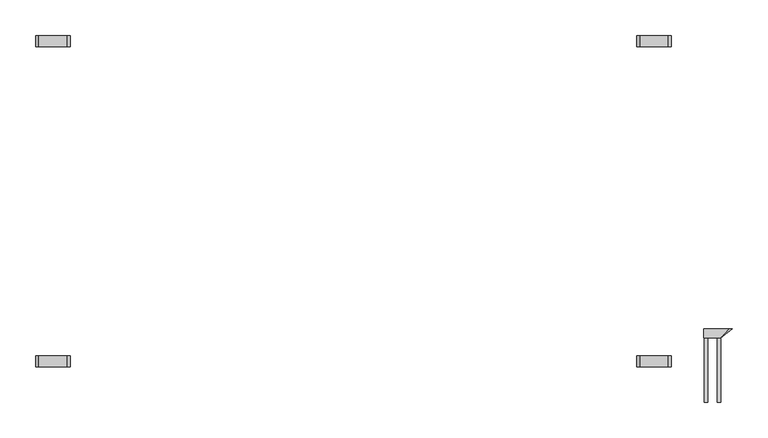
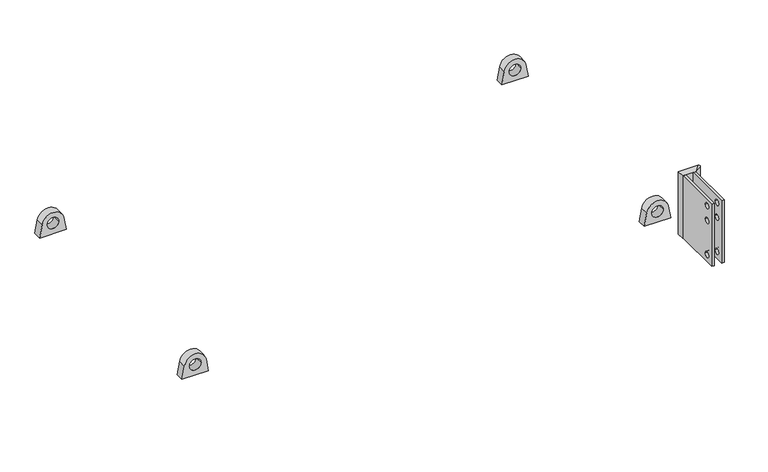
"""IFC4 building model written with IfcOpenShell, lengths in millimetres: proxy geometry, d&b J-Series Flying Frame : J Flying Frame."""

from ifc_helpers import new_model, si_unit, point, frame, frame_2d, origin, place, context, project, spatial, polyline, circle_curve, trimmed, segment, composite_curve, outline, extrude, source, transform, mapped, element, save
from ifc_brep_helpers import plane_surface, extruded_surface, spline_surface, advanced_brep


def communication_devices_215e93a8(model_context):
    return source(origin(), model_context, "Body", "SolidModel", [
        extrude(outline(composite_curve([segment(polyline([(80.0, -443.234811), (80.0, -395.065281), (104.1011074, -399.4769164)]), True, "CONTINUOUS"), segment(trimmed(circle_curve(frame_2d((100.5, -419.150046)), 20.0), [point((104.1011074, -399.4769164))], [point((104.1011074, -438.8231755))], False, "CARTESIAN"), True, "CONTINUOUS"), segment(polyline([(104.1011074, -438.8231755), (80.0, -443.234811)]), True, "CONTINUOUS")], self_intersect=False), holes=[composite_curve([segment(trimmed(circle_curve(frame_2d((100.4569778, -419.150046)), 10.5), [point((100.4569778, -429.650046))], [point((100.4569778, -408.650046))], True, "CARTESIAN"), True, "CONTINUOUS"), segment(trimmed(circle_curve(frame_2d((100.4569778, -419.150046)), 10.5), [point((100.4569778, -408.650046))], [point((100.4569778, -429.650046))], True, "CARTESIAN"), True, "CONTINUOUS")], self_intersect=False)]), frame((0.0, 59.5, 0.0), z_axis=(0.0, 1.0, 0.0), x_axis=(0.0, 0.0, 1.0)), (0.0, 0.0, 1.0), 15.0),
        extrude(outline(composite_curve([segment(polyline([(80.0, 444.934719), (104.1011074, 440.5230836)]), True, "CONTINUOUS"), segment(trimmed(circle_curve(frame_2d((100.5, 420.849954)), 20.0), [point((104.1011074, 440.5230836))], [point((104.1011074, 401.1768245))], False, "CARTESIAN"), True, "CONTINUOUS"), segment(polyline([(104.1011074, 401.1768245), (80.0, 396.765189), (80.0, 444.934719)]), True, "CONTINUOUS")], self_intersect=False), holes=[composite_curve([segment(trimmed(circle_curve(frame_2d((100.4569778, 420.849954)), 10.5), [point((100.4569778, 431.349954))], [point((100.4569778, 410.349954))], True, "CARTESIAN"), True, "CONTINUOUS"), segment(trimmed(circle_curve(frame_2d((100.4569778, 420.849954)), 10.5), [point((100.4569778, 410.349954))], [point((100.4569778, 431.349954))], True, "CARTESIAN"), True, "CONTINUOUS")], self_intersect=False)]), frame((0.0, 59.5, 0.0), z_axis=(0.0, 1.0, 0.0), x_axis=(0.0, 0.0, 1.0)), (0.0, 0.0, 1.0), 15.0),
        extrude(outline(composite_curve([segment(polyline([(80.0, -443.234811), (80.0, -395.065281), (104.1011074, -399.4769164)]), True, "CONTINUOUS"), segment(trimmed(circle_curve(frame_2d((100.5, -419.150046)), 20.0), [point((104.1011074, -399.4769164))], [point((104.1011074, -438.8231755))], False, "CARTESIAN"), True, "CONTINUOUS"), segment(polyline([(104.1011074, -438.8231755), (80.0, -443.234811)]), True, "CONTINUOUS")], self_intersect=False), holes=[composite_curve([segment(trimmed(circle_curve(frame_2d((100.4569778, -419.150046)), 10.5), [point((100.4569778, -429.650046))], [point((100.4569778, -408.650046))], True, "CARTESIAN"), True, "CONTINUOUS"), segment(trimmed(circle_curve(frame_2d((100.4569778, -419.150046)), 10.5), [point((100.4569778, -408.650046))], [point((100.4569778, -429.650046))], True, "CARTESIAN"), True, "CONTINUOUS")], self_intersect=False)]), frame((0.0, 507.5, 0.0), z_axis=(0.0, 1.0, 0.0), x_axis=(0.0, 0.0, 1.0)), (0.0, 0.0, 1.0), 15.0),
        extrude(outline(composite_curve([segment(polyline([(80.0, 444.934719), (104.1011074, 440.5230836)]), True, "CONTINUOUS"), segment(trimmed(circle_curve(frame_2d((100.5, 420.849954)), 20.0), [point((104.1011074, 440.5230836))], [point((104.1011074, 401.1768245))], False, "CARTESIAN"), True, "CONTINUOUS"), segment(polyline([(104.1011074, 401.1768245), (80.0, 396.765189), (80.0, 444.934719)]), True, "CONTINUOUS")], self_intersect=False), holes=[composite_curve([segment(trimmed(circle_curve(frame_2d((100.4569778, 420.849954)), 10.5), [point((100.4569778, 431.349954))], [point((100.4569778, 410.349954))], True, "CARTESIAN"), True, "CONTINUOUS"), segment(trimmed(circle_curve(frame_2d((100.4569778, 420.849954)), 10.5), [point((100.4569778, 410.349954))], [point((100.4569778, 431.349954))], True, "CARTESIAN"), True, "CONTINUOUS")], self_intersect=False)]), frame((0.0, 507.5, 0.0), z_axis=(0.0, 1.0, 0.0), x_axis=(0.0, 0.0, 1.0)), (0.0, 0.0, 1.0), 15.0),
        advanced_brep(
        [(513.849954, 99.7101996, 120.0), (489.820493, 99.7101996, 120.0), (489.820493, 99.7101996, 0.0), (508.849954, 99.7101996, 0.0), (513.849954, 99.7101996, 5.0), (529.8213474, 112.6590104, 115.0), (529.8213474, 112.6590104, 5.0), (524.8213474, 112.6590104, 0.0), (489.820493, 112.6590104, 0.0), (489.820493, 112.6590104, 120.0), (524.8213474, 112.6590104, 120.0)],
        [
            (0, 1),
            (1, 2),
            (2, 3),
            (3, 4, circle_curve(frame((508.849954, 99.7101996, 5.0), z_axis=(0.0, -1.0, 0.0), x_axis=(-1.0, 0.0, 0.0)), 5.0)),
            (4, 0),
            (5, 6),
            (6, 7, circle_curve(frame((524.8213474, 112.6590104, 5.0), z_axis=(0.0, 1.0, 0.0), x_axis=(-1.0, 0.0, 0.0)), 5.0)),
            (7, 8),
            (8, 9),
            (9, 10),
            (10, 5, circle_curve(frame((524.8213474, 112.6590104, 115.0), z_axis=(0.0, 1.0, 0.0), x_axis=(-1.0, 0.0, 0.0)), 5.0)),
            (9, 1),
            (0, 10),
            (8, 2),
            (7, 3),
            (6, 4),
            (5, 0),
        ],
        [
            plane_surface(frame((503.2381696, 99.7101996, 49.0), z_axis=(0.0, -1.0, 0.0), x_axis=(0.0, 0.0, -1.0))),
            plane_surface(frame((514.8210626, 112.6590104, 60.0), z_axis=(0.0, 1.0, 0.0), x_axis=(0.0, 0.0, -1.0))),
            plane_surface(frame((507.3209202, 112.6590104, 120.0), z_axis=(0.0, 0.0, 1.0), x_axis=(-1.0, 0.0, 0.0))),
            plane_surface(frame((489.820493, 112.6590104, 60.0), z_axis=(-1.0, 0.0, 0.0), x_axis=(0.0, 0.0, -1.0))),
            plane_surface(frame((507.3209202, 112.6590104, 0.0), z_axis=(0.0, 0.0, -1.0), x_axis=(1.0, 0.0, 0.0))),
            extruded_surface(trimmed(circle_curve(frame((524.8213474, 112.6590104, 5.0), z_axis=(0.0, -1.0, 0.0), x_axis=(-1.0, 0.0, 0.0)), 5.0), [point((524.8213474, 112.6590104, 0.0))], [point((529.8213474, 112.6590104, 5.0))], True, "CARTESIAN"), (-15.97139340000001, -12.948810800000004, 0.0), 20.561058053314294),
            plane_surface(frame((529.8213474, 112.6590104, 60.0), z_axis=(0.629773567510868, -0.7767787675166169, 0.0), x_axis=(0.0, 0.0, 1.0))),
            spline_surface(2, 1, [[(529.8213474, 112.6590104, 115.0), (513.849954, 99.7101996, 120.0)], [(529.8213474, 112.6590104, 120.0), (513.849954, 99.7101996, 120.0)], [(524.8213474, 112.6590104, 120.0), (513.849954, 99.7101996, 120.0)]], [3, 3], [2, 2], [0.0, 1.0], [0.0, 1.0], weights=[[1.0, 1.0], [0.7071067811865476, 0.7071067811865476], [1.0, 1.0]]),
        ],
        [
            (0, [[1, 2, 3, 4, 5]]),
            (1, [[6, 7, 8, 9, 10, 11]]),
            (2, [[-10, 12, -1, 13]]),
            (3, [[-9, 14, -2, -12]]),
            (4, [[-8, 15, -3, -14]]),
            (5, [[-7, 16, -4, -15]]),
            (6, [[-6, 17, -5, -16]]),
            (7, [[-11, -13, -17]]),
        ],
    ),
        extrude(outline(polyline([(99.7101996, 120.0), (99.7101996, 0.0), (10.0, 0.0), (10.0, 120.0), (99.7101996, 120.0)]), holes=[composite_curve([segment(trimmed(circle_curve(frame_2d((24.5, 108.0)), 5.25), [point((29.75, 108.0))], [point((19.25, 108.0))], True, "CARTESIAN"), True, "CONTINUOUS"), segment(trimmed(circle_curve(frame_2d((24.5, 108.0)), 5.25), [point((19.25, 108.0))], [point((29.75, 108.0))], True, "CARTESIAN"), True, "CONTINUOUS")], self_intersect=False), composite_curve([segment(trimmed(circle_curve(frame_2d((24.5, 79.65)), 5.25), [point((29.75, 79.65))], [point((19.25, 79.65))], True, "CARTESIAN"), True, "CONTINUOUS"), segment(trimmed(circle_curve(frame_2d((24.5, 79.65)), 5.25), [point((19.25, 79.65))], [point((29.75, 79.65))], True, "CARTESIAN"), True, "CONTINUOUS")], self_intersect=False), composite_curve([segment(trimmed(circle_curve(frame_2d((24.5, 14.0)), 5.25), [point((29.75, 14.0))], [point((19.25, 14.0))], True, "CARTESIAN"), True, "CONTINUOUS"), segment(trimmed(circle_curve(frame_2d((24.5, 14.0)), 5.25), [point((19.25, 14.0))], [point((29.75, 14.0))], True, "CARTESIAN"), True, "CONTINUOUS")], self_intersect=False)]), frame((490.8213474, 0.0, 0.0), z_axis=(1.0, 0.0, 0.0), x_axis=(0.0, 1.0, 0.0)), (0.0, 0.0, 1.0), 5.0),
        extrude(outline(polyline([(99.7101996, 120.0), (99.7101996, 0.0), (10.0, 0.0), (10.0, 120.0), (99.7101996, 120.0)]), holes=[composite_curve([segment(trimmed(circle_curve(frame_2d((24.5, 108.0)), 5.25), [point((29.75, 108.0))], [point((19.25, 108.0))], True, "CARTESIAN"), True, "CONTINUOUS"), segment(trimmed(circle_curve(frame_2d((24.5, 108.0)), 5.25), [point((19.25, 108.0))], [point((29.75, 108.0))], True, "CARTESIAN"), True, "CONTINUOUS")], self_intersect=False), composite_curve([segment(trimmed(circle_curve(frame_2d((24.5, 79.65)), 5.25), [point((29.75, 79.65))], [point((19.25, 79.65))], True, "CARTESIAN"), True, "CONTINUOUS"), segment(trimmed(circle_curve(frame_2d((24.5, 79.65)), 5.25), [point((19.25, 79.65))], [point((29.75, 79.65))], True, "CARTESIAN"), True, "CONTINUOUS")], self_intersect=False), composite_curve([segment(trimmed(circle_curve(frame_2d((24.5, 14.0)), 5.25), [point((29.75, 14.0))], [point((19.25, 14.0))], True, "CARTESIAN"), True, "CONTINUOUS"), segment(trimmed(circle_curve(frame_2d((24.5, 14.0)), 5.25), [point((19.25, 14.0))], [point((29.75, 14.0))], True, "CARTESIAN"), True, "CONTINUOUS")], self_intersect=False)]), frame((508.849954, 0.0, 0.0), z_axis=(1.0, 0.0, 0.0), x_axis=(0.0, 1.0, 0.0)), (0.0, 0.0, 1.0), 5.0),
    ])


if __name__ == "__main__":
    model = new_model("IFC4")
    model_context = context("Model", 3, world=origin())
    ifc_project = project(units=[si_unit("LENGTHUNIT", "METRE", prefix="MILLI")], contexts=[model_context])
    site = spatial("IfcSite", under=ifc_project)
    building = spatial("IfcBuilding", under=site)
    placement = place(None, origin())
    communication_devices_shape = communication_devices_215e93a8(model_context)
    element("IfcBuildingElementProxy", 1, Name="d&b J-Series Flying Frame : J Flying Frame", ObjectType="d&b J-Series Flying Frame : J Flying Frame", at=placement, inside=building, context=model_context, shape_type="MappedRepresentation", body=[
        mapped(communication_devices_shape, transform((0.0, 0.0, 0.0), x_axis=(1.0, 0.0, 0.0), y_axis=(0.0, 1.0, 0.0), z_axis=(0.0, 0.0, 1.0))),
    ])
    save(model, "model.ifc")
